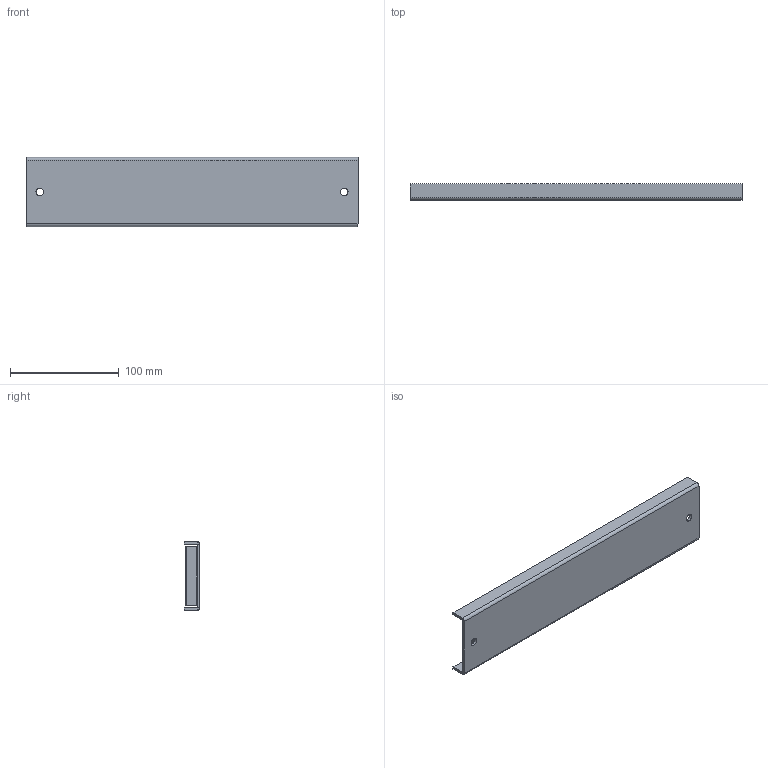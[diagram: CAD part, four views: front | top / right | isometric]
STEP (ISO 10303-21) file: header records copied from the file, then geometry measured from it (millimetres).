
FILE_DESCRIPTION (( 'STEP AP203' ), '1' );
FILE_NAME ('MQ1132.STEP', '2018-08-20T12:45:37', ( '' ), ( '' ), 'SwSTEP 2.0', 'SolidWorks 2015', '' );
FILE_SCHEMA (( 'CONFIG_CONTROL_DESIGN' ));
Length unit declared in the file: inch
Products named in the file (1): MQ1132
Bounding box: 304.8 x 14.61 x 63.5 mm (x, y, z)
Volume: 79994.1 mm3; surface area: 90047.4 mm2
Topology: 2 solids, 2 shells, 80 faces, 180 edges, 104 vertices
Faces by surface type: plane 56, cylinder 24
Entity records: 2261 total; most frequent: DIRECTION 390, CARTESIAN_POINT 365, ORIENTED_EDGE 360, EDGE_CURVE 180, VECTOR 132, LINE 132, AXIS2_PLACEMENT_3D 129, VERTEX_POINT 104
